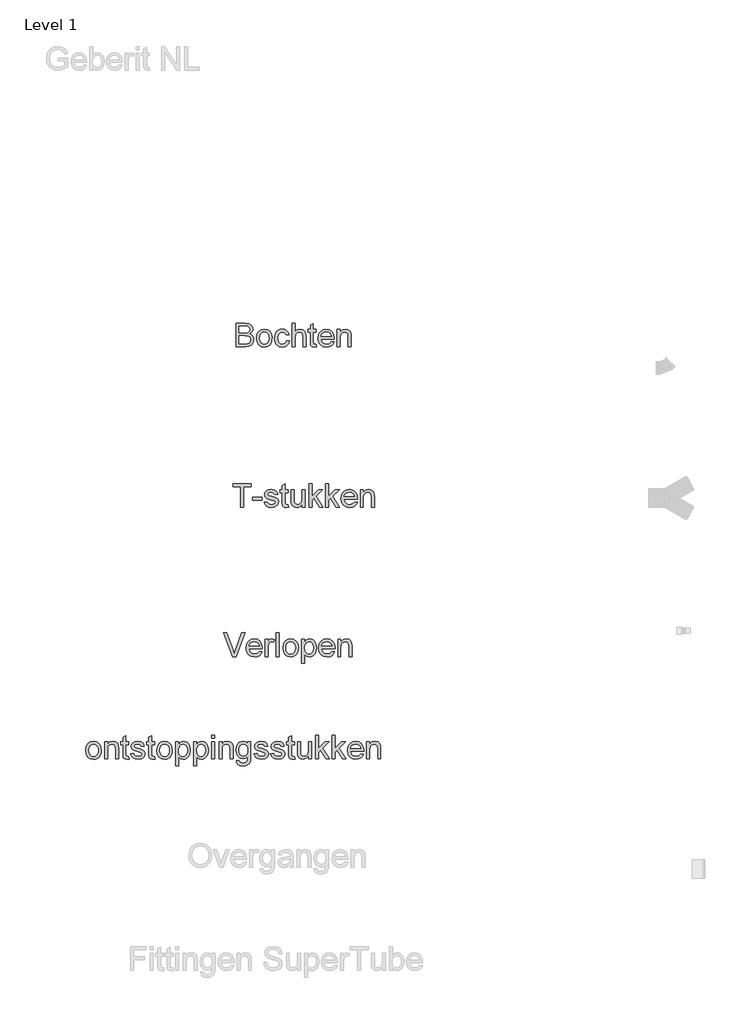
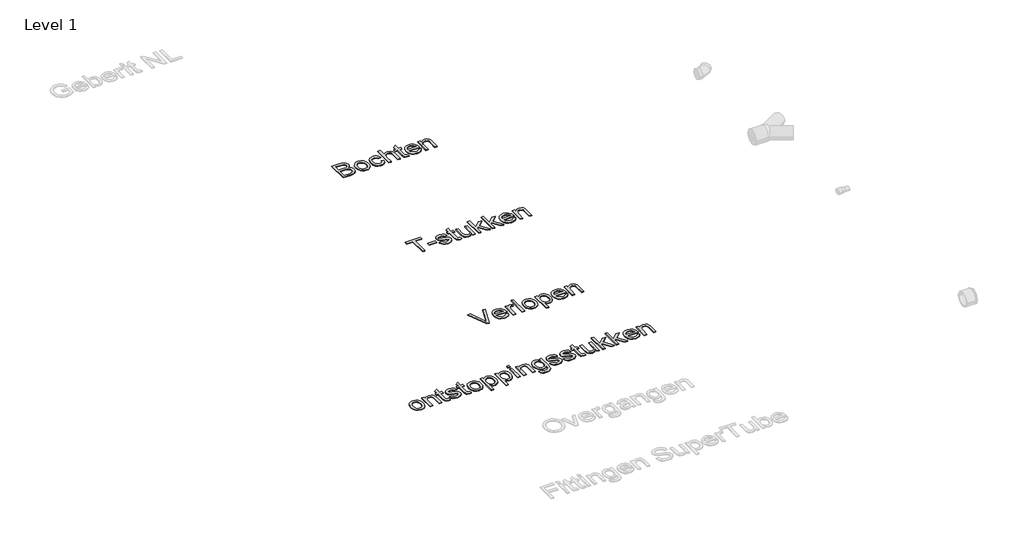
# One storey, part 3 of 9: 4 proxies.
"""IFC4 building model written with IfcOpenShell, lengths in millimetres."""

from ifc_helpers import new_model, si_unit, origin, origin_with_axes, place, context, project, spatial, polyline, outline, extrude, element, save

model = new_model("IFC4")

# Units and contexts
model_context = context("Model", 3, world=origin())
ifc_project = project(units=[si_unit("LENGTHUNIT", "METRE", prefix="MILLI")], contexts=[model_context])

# Site, building, storey
site = spatial("IfcSite", under=ifc_project)
building = spatial("IfcBuilding", under=site)
storey = spatial("IfcBuildingStorey", under=building, Name="Level 1", Elevation=0.0)

# Proxies
placement = place(None, origin())
element("IfcBuildingElementProxy", 1, Name="small", ObjectType="small", at=placement, inside=storey, context=model_context, shape_type="SweptSolid", body=[
    extrude(outline(polyline([(-2513.1083186, 21623.2663921), (-2513.1083186, 21763.9052263), (-2459.4416932, 21763.9052263), (-2433.1577509, 21759.7677802), (-2417.6380358, 21747.0464208), (-2412.0241565, 21729.0545387), (-2416.7453088, 21712.6249288), (-2431.0117726, 21700.1782546), (-2421.0501413, 21694.9764032), (-2413.6894357, 21687.0620352), (-2409.1442537, 21676.9587693), (-2407.629193, 21665.1902243), (-2411.7666392, 21646.2884474), (-2422.0158315, 21632.8288715), (-2437.3123649, 21625.6870557), (-2459.853721, 21623.2663921), (-2513.1083186, 21623.2663921)]), holes=[polyline([(-2495.5284644, 21706.7706999), (-2463.4246289, 21706.7706999), (-2444.6773624, 21708.2814687), (-2433.3981005, 21714.7880749), (-2429.6040108, 21726.2390151), (-2433.1405831, 21737.7071232), (-2443.2696007, 21744.4884146), (-2465.8624603, 21746.3253721), (-2495.5284644, 21746.3253721), (-2495.5284644, 21706.7706999)]), polyline([(-2495.5284644, 21640.8462464), (-2459.4760288, 21640.8462464), (-2446.4284807, 21641.5329595), (-2435.3895683, 21645.3613848), (-2428.0760743, 21653.1727458), (-2425.2090473, 21665.018546), (-2428.5739412, 21678.6841359), (-2439.475511, 21686.8388534), (-2461.1928115, 21689.1908457), (-2495.5284644, 21689.1908457), (-2495.5284644, 21640.8462464)])]), origin_with_axes(), (0.0, 0.0, 1.0), 5.0),
    extrude(outline(polyline([(-2390.0493387, 21674.9072141), (-2386.2466651, 21699.8091463), (-2374.8386445, 21717.3117454), (-2360.743859, 21725.8870747), (-2343.8678856, 21728.7455178), (-2325.3995963, 21725.264741), (-2310.6481414, 21714.8224105), (-2300.9783632, 21698.2425822), (-2297.7551038, 21676.3493115), (-2299.1800333, 21658.589195), (-2303.4548221, 21645.0695317), (-2310.4550034, 21634.9448061), (-2320.0561103, 21627.3695026), (-2331.459839, 21622.6440584), (-2343.8678856, 21621.0689103), (-2362.5593566, 21624.5368113), (-2377.2936437, 21634.9405141), (-2386.8604149, 21651.867991), (-2390.0493387, 21674.9072141)]), holes=[polyline([(-2372.4694844, 21674.9415497), (-2370.435097, 21659.0312666), (-2364.3319347, 21647.6962092), (-2355.1471475, 21640.9106257), (-2343.8678856, 21638.6487646), (-2332.6401271, 21640.9235016), (-2323.4725078, 21647.7477126), (-2317.3693455, 21659.2329885), (-2315.334958, 21675.4909202), (-2317.3822213, 21690.937672), (-2323.5240112, 21702.118219), (-2332.7045064, 21708.9038024), (-2343.8678856, 21711.1656635), (-2355.1471475, 21708.9123863), (-2364.3319347, 21702.1525546), (-2370.435097, 21690.843249), (-2372.4694844, 21674.9415497)])]), origin_with_axes(), (0.0, 0.0, 1.0), 5.0),
    extrude(outline(polyline([(-2212.0533142, 21660.6235825), (-2194.4734599, 21658.4261007), (-2199.3748743, 21642.7905027), (-2208.5854132, 21630.9747462), (-2221.2381013, 21623.5453693), (-2236.4659634, 21621.0689103), (-2255.1660183, 21624.5239354), (-2269.7887145, 21634.8890106), (-2279.2267271, 21651.7091886), (-2282.3727313, 21674.5295219), (-2276.9992016, 21703.7319947), (-2270.2179101, 21714.680776), (-2260.6210952, 21722.496429), (-2249.1401112, 21727.1832456), (-2236.7063129, 21728.7455178), (-2221.8518511, 21726.5995395), (-2209.9760072, 21720.1616046), (-2201.4564733, 21709.7750696), (-2196.6709417, 21695.783291), (-2214.2507959, 21693.5858092), (-2222.4055135, 21706.7535321), (-2236.5689703, 21711.1656635), (-2247.9297795, 21708.9939335), (-2256.9471803, 21702.4787433), (-2262.8314528, 21691.2681527), (-2264.792877, 21675.010221), (-2262.8743724, 21658.5333996), (-2257.1188586, 21647.2841813), (-2248.2645521, 21640.8076188), (-2237.0496695, 21638.6487646), (-2220.4827169, 21644.0394621), (-2215.0533918, 21650.880841), (-2212.0533142, 21660.6235825)])), origin_with_axes(), (0.0, 0.0, 1.0), 5.0),
    extrude(outline(polyline([(-2179.0910874, 21623.2663921), (-2179.0910874, 21763.9052263), (-2161.5112331, 21763.9052263), (-2161.5112331, 21712.1957331), (-2147.8027237, 21724.6080716), (-2130.9181664, 21728.7455178), (-2111.175166, 21724.2303794), (-2099.1920231, 21711.7493696), (-2095.5867796, 21688.6414752), (-2095.5867796, 21623.2663921), (-2113.1666339, 21623.2663921), (-2113.1666339, 21686.8216856), (-2114.5658117, 21697.8262624), (-2118.7633453, 21705.3629382), (-2125.5274689, 21709.7149822), (-2134.6264169, 21711.1656635), (-2149.0302233, 21707.2513991), (-2158.6442061, 21696.6416823), (-2161.5112331, 21678.1347654), (-2161.5112331, 21623.2663921), (-2179.0910874, 21623.2663921)])), origin_with_axes(), (0.0, 0.0, 1.0), 5.0),
    extrude(outline(polyline([(-2034.0572896, 21637.9277159), (-2031.8598078, 21622.7513573), (-2045.0103629, 21621.0689103), (-2059.740358, 21623.9874408), (-2067.0881877, 21631.6442914), (-2069.2169982, 21651.5933058), (-2069.2169982, 21708.9681817), (-2082.4018889, 21708.9681817), (-2082.4018889, 21726.548036), (-2069.2169982, 21726.548036), (-2069.2169982, 21751.6473983), (-2051.6371439, 21761.9824298), (-2051.6371439, 21726.548036), (-2034.0572896, 21726.548036), (-2034.0572896, 21708.9681817), (-2051.6371439, 21708.9681817), (-2051.6371439, 21652.1083405), (-2050.7100813, 21643.0437282), (-2047.7057116, 21639.8333446), (-2041.7141402, 21638.6487646), (-2034.0572896, 21637.9277159)])), origin_with_axes(), (0.0, 0.0, 1.0), 5.0),
    extrude(outline(polyline([(-1944.1665504, 21654.0311371), (-1926.9300526, 21651.8336553), (-1933.1405138, 21638.8461946), (-1943.0506416, 21629.1377888), (-1956.4372543, 21623.0861299), (-1973.0771701, 21621.0689103), (-1993.7043136, 21624.5496872), (-2009.5759691, 21634.9920176), (-2019.6964028, 21651.7177725), (-2023.0698807, 21674.0488227), (-2019.6620671, 21697.1309654), (-2009.4386265, 21714.3932149), (-1993.7815688, 21725.1574421), (-1974.072904, 21728.7455178), (-1954.9779891, 21725.166026), (-1939.7200833, 21714.4275505), (-1929.7155325, 21697.1996367), (-1926.3806822, 21674.1518297), (-1926.4836891, 21669.4135096), (-2005.4900264, 21669.4135096), (-2002.4470292, 21656.2543706), (-1995.3781766, 21646.5803004), (-1985.1761958, 21640.6316486), (-1972.7338136, 21638.6487646), (-1955.4973158, 21642.3226795), (-1944.1665504, 21654.0311371)]), holes=[polyline([(-2005.4900264, 21686.9933639), (-1943.9605364, 21686.9933639), (-1950.9993453, 21702.9251068), (-1961.2485377, 21709.1055243), (-1974.1415753, 21711.1656635), (-1985.9916675, 21709.5218441), (-1995.7902045, 21704.590386), (-2002.6015396, 21696.9034917), (-2005.4900264, 21686.9933639)])]), origin_with_axes(), (0.0, 0.0, 1.0), 5.0),
    extrude(outline(polyline([(-1908.8008279, 21623.2663921), (-1908.8008279, 21726.548036), (-1891.2209736, 21726.548036), (-1891.2209736, 21712.1270618), (-1877.7785655, 21724.5909038), (-1859.426159, 21728.7455178), (-1842.8248709, 21725.3977916), (-1831.4941054, 21716.6078645), (-1826.2235827, 21703.6804912), (-1825.2965201, 21686.684343), (-1825.2965201, 21623.2663921), (-1842.8763744, 21623.2663921), (-1842.8763744, 21684.315183), (-1844.9021779, 21699.8692337), (-1852.0611615, 21708.0926226), (-1864.1301435, 21711.1656635), (-1874.4265474, 21709.4402969), (-1883.2035987, 21704.2641973), (-1889.2166299, 21694.2639384), (-1891.2209736, 21678.0660941), (-1891.2209736, 21623.2663921), (-1908.8008279, 21623.2663921)])), origin_with_axes(), (0.0, 0.0, 1.0), 5.0),
])
element("IfcBuildingElementProxy", 2, Name="small", ObjectType="small", at=placement, inside=storey, context=model_context, shape_type="SweptSolid", body=[
    extrude(outline(polyline([(-2484.998685, 20666.7737086), (-2484.998685, 20789.8326885), (-2531.1458025, 20789.8326885), (-2531.1458025, 20807.4125428), (-2421.2717132, 20807.4125428), (-2421.2717132, 20789.8326885), (-2467.4188307, 20789.8326885), (-2467.4188307, 20666.7737086), (-2484.998685, 20666.7737086)])), origin_with_axes(), (0.0, 0.0, 1.0), 5.0),
    extrude(outline(polyline([(-2412.4817861, 20708.5258625), (-2412.4817861, 20726.1057168), (-2357.5447415, 20726.1057168), (-2357.5447415, 20708.5258625), (-2412.4817861, 20708.5258625)])), origin_with_axes(), (0.0, 0.0, 1.0), 5.0),
    extrude(outline(polyline([(-2344.3598508, 20697.5384536), (-2326.7799965, 20699.7359353), (-2324.0073925, 20692.2164274), (-2318.6424468, 20686.6883872), (-2299.9981872, 20682.1560811), (-2282.0749764, 20686.3106951), (-2276.2379154, 20696.0620205), (-2282.1093121, 20703.9592206), (-2300.2042012, 20708.972226), (-2326.6769895, 20717.573307), (-2338.2309367, 20727.6164855), (-2342.162369, 20741.7971101), (-2339.0034889, 20754.8961617), (-2330.38524, 20764.9050045), (-2319.208985, 20770.1068559), (-2304.0841299, 20772.2528342), (-2282.6930182, 20768.8021011), (-2269.0960996, 20759.4628035), (-2263.0530247, 20743.685571), (-2280.632879, 20741.4880892), (-2287.2424922, 20751.1879112), (-2302.7107038, 20754.67298), (-2319.5351737, 20751.3424216), (-2324.5825147, 20743.5825641), (-2322.4880399, 20738.4665518), (-2315.9299302, 20734.586623), (-2300.7879073, 20730.8440369), (-2274.9846641, 20722.5691445), (-2263.0015213, 20713.1955113), (-2258.6580612, 20697.9161457), (-2263.7569056, 20681.0916758), (-2278.4697329, 20668.8853512), (-2300.2385368, 20664.5762268), (-2317.9643176, 20666.6535338), (-2330.9002748, 20672.8854548), (-2339.5356915, 20683.2033185), (-2344.3598508, 20697.5384536)])), origin_with_axes(), (0.0, 0.0, 1.0), 5.0),
    extrude(outline(polyline([(-2201.5235348, 20681.4350324), (-2199.326053, 20666.2586738), (-2212.476608, 20664.5762268), (-2227.2066031, 20667.4947573), (-2234.5544328, 20675.1516079), (-2236.6832433, 20695.1006222), (-2236.6832433, 20752.4754982), (-2249.868134, 20752.4754982), (-2249.868134, 20770.0553524), (-2236.6832433, 20770.0553524), (-2236.6832433, 20795.1547147), (-2219.103389, 20805.4897462), (-2219.103389, 20770.0553524), (-2201.5235348, 20770.0553524), (-2201.5235348, 20752.4754982), (-2219.103389, 20752.4754982), (-2219.103389, 20695.615657), (-2218.1763264, 20686.5510446), (-2215.1719568, 20683.3406611), (-2209.1803854, 20682.1560811), (-2201.5235348, 20681.4350324)])), origin_with_axes(), (0.0, 0.0, 1.0), 5.0),
    extrude(outline(polyline([(-2118.019227, 20666.7737086), (-2118.019227, 20684.5252411), (-2131.7878238, 20669.5634804), (-2149.7453702, 20664.5762268), (-2166.2779871, 20668.0784634), (-2177.6774238, 20676.8683905), (-2182.9136109, 20689.8129317), (-2183.9436805, 20706.1567024), (-2183.9436805, 20770.0553524), (-2166.3638262, 20770.0553524), (-2166.3638262, 20714.4315948), (-2165.299421, 20696.508384), (-2158.3464513, 20685.9845064), (-2145.2473997, 20682.1560811), (-2130.5689081, 20686.0703455), (-2120.8690862, 20696.7315657), (-2118.019227, 20716.3200557), (-2118.019227, 20770.0553524), (-2100.4393727, 20770.0553524), (-2100.4393727, 20666.7737086), (-2118.019227, 20666.7737086)])), origin_with_axes(), (0.0, 0.0, 1.0), 5.0),
    extrude(outline(polyline([(-2076.2670731, 20666.7737086), (-2076.2670731, 20807.4125428), (-2058.6872188, 20807.4125428), (-2058.6872188, 20731.8397708), (-2019.2698893, 20770.0553524), (-1994.960247, 20770.0553524), (-2034.8582757, 20731.3590716), (-1992.7627652, 20666.7737086), (-2013.2954857, 20666.7737086), (-2047.4594603, 20719.1355792), (-2058.6872188, 20708.2511773), (-2058.6872188, 20666.7737086), (-2076.2670731, 20666.7737086)])), origin_with_axes(), (0.0, 0.0, 1.0), 5.0),
    extrude(outline(polyline([(-1977.3803928, 20666.7737086), (-1977.3803928, 20807.4125428), (-1959.8005385, 20807.4125428), (-1959.8005385, 20731.8397708), (-1920.383209, 20770.0553524), (-1896.0735667, 20770.0553524), (-1935.9715954, 20731.3590716), (-1893.8760849, 20666.7737086), (-1914.4088054, 20666.7737086), (-1948.57278, 20719.1355792), (-1959.8005385, 20708.2511773), (-1959.8005385, 20666.7737086), (-1977.3803928, 20666.7737086)])), origin_with_axes(), (0.0, 0.0, 1.0), 5.0),
    extrude(outline(polyline([(-1806.1828275, 20697.5384536), (-1788.9463297, 20695.3409718), (-1795.1567909, 20682.3535111), (-1805.0669188, 20672.6451052), (-1818.4535314, 20666.5934464), (-1835.0934472, 20664.5762268), (-1855.7205907, 20668.0570036), (-1871.5922462, 20678.499334), (-1881.7126799, 20695.2250889), (-1885.0861578, 20717.5561392), (-1881.6783443, 20740.6382818), (-1871.4549036, 20757.9005313), (-1855.7978459, 20768.6647585), (-1836.0891811, 20772.2528342), (-1816.9942662, 20768.6733424), (-1801.7363604, 20757.934867), (-1791.7318096, 20740.7069531), (-1788.3969593, 20717.6591461), (-1788.4999662, 20712.920826), (-1867.5063035, 20712.920826), (-1864.4633063, 20699.7616871), (-1857.3944538, 20690.0876169), (-1847.1924729, 20684.138965), (-1834.7500907, 20682.1560811), (-1817.5135929, 20685.8299959), (-1806.1828275, 20697.5384536)]), holes=[polyline([(-1867.5063035, 20730.5006803), (-1805.9768136, 20730.5006803), (-1813.0156224, 20746.4324233), (-1823.2648148, 20752.6128408), (-1836.1578524, 20754.67298), (-1848.0079446, 20753.0291606), (-1857.8064816, 20748.0977024), (-1864.6178167, 20740.4108081), (-1867.5063035, 20730.5006803)])]), origin_with_axes(), (0.0, 0.0, 1.0), 5.0),
    extrude(outline(polyline([(-1770.817105, 20666.7737086), (-1770.817105, 20770.0553524), (-1753.2372507, 20770.0553524), (-1753.2372507, 20755.6343782), (-1739.7948426, 20768.0982202), (-1721.4424362, 20772.2528342), (-1704.841148, 20768.9051081), (-1693.5103825, 20760.1151809), (-1688.2398598, 20747.1878076), (-1687.3127972, 20730.1916594), (-1687.3127972, 20666.7737086), (-1704.8926515, 20666.7737086), (-1704.8926515, 20727.8224994), (-1706.918455, 20743.3765502), (-1714.0774386, 20751.599939), (-1726.1464206, 20754.67298), (-1736.4428245, 20752.9476134), (-1745.2198758, 20747.7715137), (-1751.232907, 20737.7712548), (-1753.2372507, 20721.5734106), (-1753.2372507, 20666.7737086), (-1770.817105, 20666.7737086)])), origin_with_axes(), (0.0, 0.0, 1.0), 5.0),
])
element("IfcBuildingElementProxy", 3, Name="small", ObjectType="small", at=placement, inside=storey, context=model_context, shape_type="SweptSolid", body=[
    extrude(outline(polyline([(-2531.6280803, 19776.1046836), (-2587.5951945, 19916.7435178), (-2568.7792567, 19916.7435178), (-2531.3190594, 19815.4190061), (-2523.7308801, 19792.5857969), (-2516.2457078, 19815.4190061), (-2478.6825035, 19916.7435178), (-2459.8665657, 19916.7435178), (-2513.4645199, 19776.1046836), (-2531.6280803, 19776.1046836)])), origin_with_axes(), (0.0, 0.0, 1.0), 5.0),
    extrude(outline(polyline([(-2373.4093918, 19806.8694285), (-2356.172894, 19804.6719468), (-2362.3833553, 19791.6844861), (-2372.2934831, 19781.9760802), (-2385.6800957, 19775.9244214), (-2402.3200115, 19773.9072018), (-2422.947155, 19777.3879786), (-2438.8188105, 19787.830309), (-2448.9392442, 19804.5560639), (-2452.3127221, 19826.8871142), (-2448.9049086, 19849.9692568), (-2438.6814679, 19867.2315063), (-2423.0244102, 19877.9957335), (-2403.3157454, 19881.5838092), (-2384.2208305, 19878.0043174), (-2368.9629247, 19867.265842), (-2358.9583739, 19850.0379281), (-2355.6235236, 19826.9901211), (-2355.7265306, 19822.251801), (-2434.7328678, 19822.251801), (-2431.6898706, 19809.0926621), (-2424.6210181, 19799.4185919), (-2414.4190372, 19793.46994), (-2401.976655, 19791.487056), (-2384.7401572, 19795.1609709), (-2373.4093918, 19806.8694285)]), holes=[polyline([(-2434.7328678, 19839.8316553), (-2373.2033779, 19839.8316553), (-2380.2421867, 19855.7633982), (-2390.4913791, 19861.9438158), (-2403.3844168, 19864.0039549), (-2415.234509, 19862.3601356), (-2425.0330459, 19857.4286774), (-2431.844381, 19849.7417831), (-2434.7328678, 19839.8316553)])]), origin_with_axes(), (0.0, 0.0, 1.0), 5.0),
    extrude(outline(polyline([(-2338.0436693, 19776.1046836), (-2338.0436693, 19879.3863274), (-2322.6612968, 19879.3863274), (-2322.6612968, 19864.1069619), (-2311.7425592, 19878.1845796), (-2300.7551503, 19881.5838092), (-2283.1066247, 19876.1587761), (-2288.9780213, 19860.3987114), (-2301.3388564, 19864.0039549), (-2311.2790279, 19860.536054), (-2317.6139559, 19850.9220712), (-2320.463815, 19830.3893508), (-2320.463815, 19776.1046836), (-2338.0436693, 19776.1046836)])), origin_with_axes(), (0.0, 0.0, 1.0), 5.0),
    extrude(outline(polyline([(-2272.1192158, 19776.1046836), (-2272.1192158, 19916.7435178), (-2254.5393615, 19916.7435178), (-2254.5393615, 19776.1046836), (-2272.1192158, 19776.1046836)])), origin_with_axes(), (0.0, 0.0, 1.0), 5.0),
    extrude(outline(polyline([(-2232.5645437, 19827.7455055), (-2228.7618701, 19852.6474377), (-2217.3538494, 19870.1500368), (-2203.2590639, 19878.7253661), (-2186.3830905, 19881.5838092), (-2167.9148012, 19878.1030324), (-2153.1633464, 19867.660702), (-2143.4935681, 19851.0808736), (-2140.2703087, 19829.1876029), (-2141.6952383, 19811.4274865), (-2145.9700271, 19797.9078231), (-2152.9702083, 19787.7830975), (-2162.5713153, 19780.2077941), (-2173.975044, 19775.4823498), (-2186.3830905, 19773.9072018), (-2205.0745616, 19777.3751027), (-2219.8088486, 19787.7788055), (-2229.3756199, 19804.7062824), (-2232.5645437, 19827.7455055)]), holes=[polyline([(-2214.9846894, 19827.7798411), (-2212.9503019, 19811.869558), (-2206.8471396, 19800.5345006), (-2197.6623525, 19793.7489172), (-2186.3830905, 19791.487056), (-2175.155332, 19793.7617931), (-2165.9877127, 19800.5860041), (-2159.8845504, 19812.07128), (-2157.850163, 19828.3292116), (-2159.8974263, 19843.7759634), (-2166.0392162, 19854.9565104), (-2175.2197114, 19861.7420938), (-2186.3830905, 19864.0039549), (-2197.6623525, 19861.7506777), (-2206.8471396, 19854.9908461), (-2212.9503019, 19843.6815404), (-2214.9846894, 19827.7798411)])]), origin_with_axes(), (0.0, 0.0, 1.0), 5.0),
    extrude(outline(polyline([(-2120.4929726, 19736.5500114), (-2120.4929726, 19879.3863274), (-2102.9131184, 19879.3863274), (-2102.9131184, 19862.1498297), (-2090.7582973, 19876.7253143), (-2074.3458552, 19881.5838092), (-2062.4571354, 19879.8841944), (-2052.0620165, 19874.7853499), (-2043.598278, 19866.5962967), (-2037.5036996, 19855.6260556), (-2032.5937013, 19828.5352255), (-2038.1389092, 19800.0538014), (-2044.9373685, 19788.8775464), (-2054.2423304, 19780.6541576), (-2065.0795209, 19775.5939407), (-2076.4746657, 19773.9072018), (-2091.771199, 19778.4223401), (-2102.9131184, 19789.8389447), (-2102.9131184, 19736.5500114), (-2120.4929726, 19736.5500114)]), holes=[polyline([(-2102.9131184, 19826.9214498), (-2101.0117816, 19811.1613851), (-2095.3077713, 19800.1396406), (-2086.8912443, 19793.6502022), (-2076.8523578, 19791.487056), (-2066.650377, 19793.7274574), (-2058.0192522, 19800.4486615), (-2052.1349797, 19811.8738499), (-2050.1735555, 19828.2262046), (-2052.0877682, 19843.9004302), (-2057.8304061, 19855.0766852), (-2066.2340572, 19861.7721375), (-2076.1313091, 19864.0039549), (-2086.0671887, 19861.6305029), (-2094.7927365, 19854.5101469), (-2100.8830229, 19842.8660686), (-2102.9131184, 19826.9214498)])]), origin_with_axes(), (0.0, 0.0, 1.0), 5.0),
    extrude(outline(polyline([(-1940.5054802, 19806.8694285), (-1923.2689825, 19804.6719468), (-1929.4794437, 19791.6844861), (-1939.3895715, 19781.9760802), (-1952.7761842, 19775.9244214), (-1969.4161, 19773.9072018), (-1990.0432434, 19777.3879786), (-2005.914899, 19787.830309), (-2016.0353327, 19804.5560639), (-2019.4088106, 19826.8871142), (-2016.000997, 19849.9692568), (-2005.7775564, 19867.2315063), (-1990.1204987, 19877.9957335), (-1970.4118339, 19881.5838092), (-1951.3169189, 19878.0043174), (-1936.0590132, 19867.265842), (-1926.0544623, 19850.0379281), (-1922.719612, 19826.9901211), (-1922.822619, 19822.251801), (-2001.8289563, 19822.251801), (-1998.785959, 19809.0926621), (-1991.7171065, 19799.4185919), (-1981.5151256, 19793.46994), (-1969.0727434, 19791.487056), (-1951.8362457, 19795.1609709), (-1940.5054802, 19806.8694285)]), holes=[polyline([(-2001.8289563, 19839.8316553), (-1940.2994663, 19839.8316553), (-1947.3382752, 19855.7633982), (-1957.5874675, 19861.9438158), (-1970.4805052, 19864.0039549), (-1982.3305974, 19862.3601356), (-1992.1291343, 19857.4286774), (-1998.9404695, 19849.7417831), (-2001.8289563, 19839.8316553)])]), origin_with_axes(), (0.0, 0.0, 1.0), 5.0),
    extrude(outline(polyline([(-1905.1397578, 19776.1046836), (-1905.1397578, 19879.3863274), (-1887.5599035, 19879.3863274), (-1887.5599035, 19864.9653532), (-1874.1174954, 19877.4291952), (-1855.7650889, 19881.5838092), (-1839.1638008, 19878.2360831), (-1827.8330353, 19869.4461559), (-1822.5625126, 19856.5187826), (-1821.63545, 19839.5226344), (-1821.63545, 19776.1046836), (-1839.2153042, 19776.1046836), (-1839.2153042, 19837.1534744), (-1841.2411077, 19852.7075251), (-1848.4000914, 19860.930914), (-1860.4690734, 19864.0039549), (-1870.7654773, 19862.2785884), (-1879.5425285, 19857.1024887), (-1885.5555598, 19847.1022298), (-1887.5599035, 19830.9043856), (-1887.5599035, 19776.1046836), (-1905.1397578, 19776.1046836)])), origin_with_axes(), (0.0, 0.0, 1.0), 5.0),
])
element("IfcBuildingElementProxy", 4, Name="small", ObjectType="small", at=placement, inside=storey, context=model_context, shape_type="SweptSolid", body=[
    extrude(outline(polyline([(-3409.2221868, 19216.7836302), (-3405.4195132, 19241.6855625), (-3394.0114925, 19259.1881615), (-3379.916707, 19267.7634908), (-3363.0407336, 19270.6219339), (-3344.5724443, 19267.1411571), (-3329.8209895, 19256.6988267), (-3320.1512112, 19240.1189983), (-3316.9279518, 19218.2257276), (-3318.3528814, 19200.4656112), (-3322.6276702, 19186.9459479), (-3329.6278514, 19176.8212222), (-3339.2289584, 19169.2459188), (-3350.6326871, 19164.5204746), (-3363.0407336, 19162.9453265), (-3381.7322047, 19166.4132274), (-3396.4664917, 19176.8169303), (-3406.033263, 19193.7444071), (-3409.2221868, 19216.7836302)]), holes=[polyline([(-3391.6423325, 19216.8179659), (-3389.6079451, 19200.9076827), (-3383.5047828, 19189.5726253), (-3374.3199956, 19182.7870419), (-3363.0407336, 19180.5251808), (-3351.8129751, 19182.7999178), (-3342.6453558, 19189.6241288), (-3336.5421935, 19201.1094047), (-3334.5078061, 19217.3673363), (-3336.5550694, 19232.8140882), (-3342.6968593, 19243.9946351), (-3351.8773545, 19250.7802185), (-3363.0407336, 19253.0420797), (-3374.3199956, 19250.7888024), (-3383.5047828, 19244.0289708), (-3389.6079451, 19232.7196651), (-3391.6423325, 19216.8179659)])]), origin_with_axes(), (0.0, 0.0, 1.0), 5.0),
    extrude(outline(polyline([(-3297.1506158, 19165.1428083), (-3297.1506158, 19268.4244522), (-3279.5707615, 19268.4244522), (-3279.5707615, 19254.0034779), (-3266.1283534, 19266.4673199), (-3247.7759469, 19270.6219339), (-3231.1746587, 19267.2742078), (-3219.8438933, 19258.4842806), (-3214.5733706, 19245.5569073), (-3213.6463079, 19228.5607592), (-3213.6463079, 19165.1428083), (-3231.2261622, 19165.1428083), (-3231.2261622, 19226.1915991), (-3233.2519657, 19241.7456499), (-3240.4109494, 19249.9690387), (-3252.4799314, 19253.0420797), (-3262.7763353, 19251.3167131), (-3271.5533865, 19246.1406134), (-3277.5664177, 19236.1403545), (-3279.5707615, 19219.9425103), (-3279.5707615, 19165.1428083), (-3297.1506158, 19165.1428083)])), origin_with_axes(), (0.0, 0.0, 1.0), 5.0),
    extrude(outline(polyline([(-3152.116818, 19179.8041321), (-3149.9193362, 19164.6277735), (-3163.0698912, 19162.9453265), (-3177.7998863, 19165.863857), (-3185.147716, 19173.5207076), (-3187.2765265, 19193.4697219), (-3187.2765265, 19250.8445979), (-3200.4614172, 19250.8445979), (-3200.4614172, 19268.4244522), (-3187.2765265, 19268.4244522), (-3187.2765265, 19293.5238144), (-3169.6966722, 19303.8588459), (-3169.6966722, 19268.4244522), (-3152.116818, 19268.4244522), (-3152.116818, 19250.8445979), (-3169.6966722, 19250.8445979), (-3169.6966722, 19193.9847567), (-3168.7696096, 19184.9201443), (-3165.76524, 19181.7097608), (-3159.7736686, 19180.5251808), (-3152.116818, 19179.8041321)])), origin_with_axes(), (0.0, 0.0, 1.0), 5.0),
    extrude(outline(polyline([(-3141.1294091, 19195.9075533), (-3123.5495548, 19198.1050351), (-3120.7769508, 19190.5855271), (-3115.412005, 19185.057487), (-3096.7677455, 19180.5251808), (-3078.8445347, 19184.6797948), (-3073.0074737, 19194.4311202), (-3078.8788704, 19202.3283204), (-3096.9737594, 19207.3413257), (-3123.4465478, 19215.9424067), (-3135.000495, 19225.9855852), (-3138.9319273, 19240.1662098), (-3135.7730472, 19253.2652614), (-3127.1547983, 19263.2741042), (-3115.9785433, 19268.4759556), (-3100.8536882, 19270.6219339), (-3079.4625765, 19267.1712008), (-3065.8656579, 19257.8319032), (-3059.822583, 19242.0546707), (-3077.4024373, 19239.857189), (-3084.0120505, 19249.5570109), (-3099.4802621, 19253.0420797), (-3116.304732, 19249.7115213), (-3121.352073, 19241.9516638), (-3119.2575982, 19236.8356515), (-3112.6994885, 19232.9557227), (-3097.5574655, 19229.2131366), (-3071.7542224, 19220.9382442), (-3059.7710795, 19211.564611), (-3055.4276195, 19196.2852455), (-3060.5264639, 19179.4607755), (-3075.2392912, 19167.2544509), (-3097.0080951, 19162.9453265), (-3114.7338759, 19165.0226335), (-3127.6698331, 19171.2545545), (-3136.3052498, 19181.5724182), (-3141.1294091, 19195.9075533)])), origin_with_axes(), (0.0, 0.0, 1.0), 5.0),
    extrude(outline(polyline([(-2998.2930931, 19179.8041321), (-2996.0956113, 19164.6277735), (-3009.2461663, 19162.9453265), (-3023.9761614, 19165.863857), (-3031.3239911, 19173.5207076), (-3033.4528016, 19193.4697219), (-3033.4528016, 19250.8445979), (-3046.6376923, 19250.8445979), (-3046.6376923, 19268.4244522), (-3033.4528016, 19268.4244522), (-3033.4528016, 19293.5238144), (-3015.8729473, 19303.8588459), (-3015.8729473, 19268.4244522), (-2998.2930931, 19268.4244522), (-2998.2930931, 19250.8445979), (-3015.8729473, 19250.8445979), (-3015.8729473, 19193.9847567), (-3014.9458847, 19184.9201443), (-3011.9415151, 19181.7097608), (-3005.9499436, 19180.5251808), (-2998.2930931, 19179.8041321)])), origin_with_axes(), (0.0, 0.0, 1.0), 5.0),
    extrude(outline(polyline([(-2985.1082023, 19216.7836302), (-2981.3055288, 19241.6855625), (-2969.8975081, 19259.1881615), (-2955.8027226, 19267.7634908), (-2938.9267492, 19270.6219339), (-2920.4584599, 19267.1411571), (-2905.7070051, 19256.6988267), (-2896.0372268, 19240.1189983), (-2892.8139674, 19218.2257276), (-2894.238897, 19200.4656112), (-2898.5136858, 19186.9459479), (-2905.513867, 19176.8212222), (-2915.1149739, 19169.2459188), (-2926.5187027, 19164.5204746), (-2938.9267492, 19162.9453265), (-2957.6182203, 19166.4132274), (-2972.3525073, 19176.8169303), (-2981.9192786, 19193.7444071), (-2985.1082023, 19216.7836302)]), holes=[polyline([(-2967.5283481, 19216.8179659), (-2965.4939606, 19200.9076827), (-2959.3907983, 19189.5726253), (-2950.2060112, 19182.7870419), (-2938.9267492, 19180.5251808), (-2927.6989907, 19182.7999178), (-2918.5313714, 19189.6241288), (-2912.4282091, 19201.1094047), (-2910.3938217, 19217.3673363), (-2912.441085, 19232.8140882), (-2918.5828749, 19243.9946351), (-2927.7633701, 19250.7802185), (-2938.9267492, 19253.0420797), (-2950.2060112, 19250.7888024), (-2959.3907983, 19244.0289708), (-2965.4939606, 19232.7196651), (-2967.5283481, 19216.8179659)])]), origin_with_axes(), (0.0, 0.0, 1.0), 5.0),
    extrude(outline(polyline([(-2873.0366313, 19125.5881362), (-2873.0366313, 19268.4244522), (-2855.4567771, 19268.4244522), (-2855.4567771, 19251.1879544), (-2843.3019559, 19265.7634391), (-2826.8895139, 19270.6219339), (-2815.0007941, 19268.9223191), (-2804.6056751, 19263.8234747), (-2796.1419367, 19255.6344215), (-2790.0473583, 19244.6641804), (-2785.13736, 19217.5733502), (-2790.6825679, 19189.0919262), (-2797.4810272, 19177.9156712), (-2806.7859891, 19169.6922823), (-2817.6231795, 19164.6320654), (-2829.0183243, 19162.9453265), (-2844.3148577, 19167.4604649), (-2855.4567771, 19178.8770694), (-2855.4567771, 19125.5881362), (-2873.0366313, 19125.5881362)]), holes=[polyline([(-2855.4567771, 19215.9595746), (-2853.5554403, 19200.1995099), (-2847.8514299, 19189.1777653), (-2839.434903, 19182.6883269), (-2829.3960165, 19180.5251808), (-2819.1940357, 19182.7655821), (-2810.5629109, 19189.4867862), (-2804.6786384, 19200.9119747), (-2802.7172142, 19217.2643294), (-2804.6314269, 19232.9385549), (-2810.3740648, 19244.1148099), (-2818.7777159, 19250.8102622), (-2828.6749678, 19253.0420797), (-2838.6108474, 19250.6686277), (-2847.3363952, 19243.5482716), (-2853.4266816, 19231.9041934), (-2855.4567771, 19215.9595746)])]), origin_with_axes(), (0.0, 0.0, 1.0), 5.0),
    extrude(outline(polyline([(-2765.3600239, 19125.5881362), (-2765.3600239, 19268.4244522), (-2747.7801696, 19268.4244522), (-2747.7801696, 19251.1879544), (-2735.6253485, 19265.7634391), (-2719.2129064, 19270.6219339), (-2707.3241866, 19268.9223191), (-2696.9290677, 19263.8234747), (-2688.4653293, 19255.6344215), (-2682.3707509, 19244.6641804), (-2677.4607525, 19217.5733502), (-2683.0059605, 19189.0919262), (-2689.8044197, 19177.9156712), (-2699.1093817, 19169.6922823), (-2709.9465721, 19164.6320654), (-2721.3417169, 19162.9453265), (-2736.6382503, 19167.4604649), (-2747.7801696, 19178.8770694), (-2747.7801696, 19125.5881362), (-2765.3600239, 19125.5881362)]), holes=[polyline([(-2747.7801696, 19215.9595746), (-2745.8788328, 19200.1995099), (-2740.1748225, 19189.1777653), (-2731.7582956, 19182.6883269), (-2721.7194091, 19180.5251808), (-2711.5174282, 19182.7655821), (-2702.8863035, 19189.4867862), (-2697.002031, 19200.9119747), (-2695.0406068, 19217.2643294), (-2696.9548194, 19232.9385549), (-2702.6974574, 19244.1148099), (-2711.1011084, 19250.8102622), (-2720.9983604, 19253.0420797), (-2730.9342399, 19250.6686277), (-2739.6597877, 19243.5482716), (-2745.7500741, 19231.9041934), (-2747.7801696, 19215.9595746)])]), origin_with_axes(), (0.0, 0.0, 1.0), 5.0),
    extrude(outline(polyline([(-2657.6834165, 19288.2017882), (-2657.6834165, 19305.7816425), (-2640.1035622, 19305.7816425), (-2640.1035622, 19288.2017882), (-2657.6834165, 19288.2017882)])), origin_with_axes(), (0.0, 0.0, 1.0), 5.0),
    extrude(outline(polyline([(-2657.6834165, 19165.1428083), (-2657.6834165, 19268.4244522), (-2640.1035622, 19268.4244522), (-2640.1035622, 19165.1428083), (-2657.6834165, 19165.1428083)])), origin_with_axes(), (0.0, 0.0, 1.0), 5.0),
    extrude(outline(polyline([(-2613.7337808, 19165.1428083), (-2613.7337808, 19268.4244522), (-2596.1539265, 19268.4244522), (-2596.1539265, 19254.0034779), (-2582.7115184, 19266.4673199), (-2564.3591119, 19270.6219339), (-2547.7578237, 19267.2742078), (-2536.4270583, 19258.4842806), (-2531.1565356, 19245.5569073), (-2530.229473, 19228.5607592), (-2530.229473, 19165.1428083), (-2547.8093272, 19165.1428083), (-2547.8093272, 19226.1915991), (-2549.8351307, 19241.7456499), (-2556.9941144, 19249.9690387), (-2569.0630964, 19253.0420797), (-2579.3595003, 19251.3167131), (-2588.1365515, 19246.1406134), (-2594.1495828, 19236.1403545), (-2596.1539265, 19219.9425103), (-2596.1539265, 19165.1428083), (-2613.7337808, 19165.1428083)])), origin_with_axes(), (0.0, 0.0, 1.0), 5.0),
    extrude(outline(polyline([(-2510.4521369, 19156.3528811), (-2492.8722826, 19154.1553994), (-2487.1725642, 19144.8847731), (-2470.1077448, 19140.9705087), (-2452.1158626, 19145.3998079), (-2443.5319494, 19157.8293142), (-2442.3302016, 19178.327699), (-2454.7082044, 19168.439031), (-2469.7987239, 19165.1428083), (-2487.9236566, 19168.9798175), (-2501.439028, 19180.4908451), (-2509.846971, 19197.3668185), (-2512.6496187, 19217.298665), (-2507.6194455, 19244.5440056), (-2501.4647798, 19255.6043778), (-2493.0611287, 19263.8234747), (-2482.6960535, 19268.9223191), (-2470.6571152, 19270.6219339), (-2454.9743057, 19266.7763408), (-2442.3302016, 19255.2395615), (-2442.3302016, 19268.4244522), (-2424.7503473, 19268.4244522), (-2424.7503473, 19179.2547616), (-2425.9520951, 19158.6662458), (-2429.5573387, 19145.1079548), (-2435.7677999, 19136.1163057), (-2444.7852008, 19129.2277154), (-2456.4121112, 19124.8499196), (-2470.4511013, 19123.3906544), (-2486.8077479, 19125.4465016), (-2499.6879097, 19131.6140432), (-2507.9499262, 19141.9104472), (-2510.4521369, 19156.3528811)]), holes=[polyline([(-2495.0697644, 19218.5004129), (-2493.1941794, 19202.3755319), (-2487.5674242, 19191.289408), (-2479.1079778, 19184.8643489), (-2468.7343186, 19182.7226626), (-2458.4379147, 19184.851473), (-2449.9355487, 19191.2379045), (-2444.2315384, 19202.1823938), (-2442.3302016, 19217.9853781), (-2444.2873338, 19233.226116), (-2450.1587304, 19244.200649), (-2458.7855632, 19250.831722), (-2469.0090039, 19253.0420797), (-2479.0478904, 19250.8660577), (-2487.4644173, 19244.3379917), (-2493.1684276, 19233.526553), (-2495.0697644, 19218.5004129)])]), origin_with_axes(), (0.0, 0.0, 1.0), 5.0),
    extrude(outline(polyline([(-2404.9730112, 19195.9075533), (-2387.393157, 19198.1050351), (-2384.620553, 19190.5855271), (-2379.2556072, 19185.057487), (-2360.6113477, 19180.5251808), (-2342.6881369, 19184.6797948), (-2336.8510759, 19194.4311202), (-2342.7224726, 19202.3283204), (-2360.8173616, 19207.3413257), (-2387.29015, 19215.9424067), (-2398.8440972, 19225.9855852), (-2402.7755295, 19240.1662098), (-2399.6166494, 19253.2652614), (-2390.9984005, 19263.2741042), (-2379.8221455, 19268.4759556), (-2364.6972904, 19270.6219339), (-2343.3061787, 19267.1712008), (-2329.7092601, 19257.8319032), (-2323.6661852, 19242.0546707), (-2341.2460395, 19239.857189), (-2347.8556527, 19249.5570109), (-2363.3238643, 19253.0420797), (-2380.1483342, 19249.7115213), (-2385.1956752, 19241.9516638), (-2383.1012003, 19236.8356515), (-2376.5430906, 19232.9557227), (-2361.4010677, 19229.2131366), (-2335.5978246, 19220.9382442), (-2323.6146817, 19211.564611), (-2319.2712216, 19196.2852455), (-2324.3700661, 19179.4607755), (-2339.0828934, 19167.2544509), (-2360.8516973, 19162.9453265), (-2378.5774781, 19165.0226335), (-2391.5134353, 19171.2545545), (-2400.148852, 19181.5724182), (-2404.9730112, 19195.9075533)])), origin_with_axes(), (0.0, 0.0, 1.0), 5.0),
    extrude(outline(polyline([(-2306.0863309, 19195.9075533), (-2288.5064767, 19198.1050351), (-2285.7338727, 19190.5855271), (-2280.3689269, 19185.057487), (-2261.7246674, 19180.5251808), (-2243.8014566, 19184.6797948), (-2237.9643956, 19194.4311202), (-2243.8357923, 19202.3283204), (-2261.9306813, 19207.3413257), (-2288.4034697, 19215.9424067), (-2299.9574169, 19225.9855852), (-2303.8888491, 19240.1662098), (-2300.7299691, 19253.2652614), (-2292.1117202, 19263.2741042), (-2280.9354652, 19268.4759556), (-2265.8106101, 19270.6219339), (-2244.4194984, 19267.1712008), (-2230.8225798, 19257.8319032), (-2224.7795049, 19242.0546707), (-2242.3593592, 19239.857189), (-2248.9689724, 19249.5570109), (-2264.437184, 19253.0420797), (-2281.2616539, 19249.7115213), (-2286.3089949, 19241.9516638), (-2284.21452, 19236.8356515), (-2277.6564103, 19232.9557227), (-2262.5143874, 19229.2131366), (-2236.7111443, 19220.9382442), (-2224.7280014, 19211.564611), (-2220.3845413, 19196.2852455), (-2225.4833858, 19179.4607755), (-2240.196213, 19167.2544509), (-2261.965017, 19162.9453265), (-2279.6907978, 19165.0226335), (-2292.626755, 19171.2545545), (-2301.2621717, 19181.5724182), (-2306.0863309, 19195.9075533)])), origin_with_axes(), (0.0, 0.0, 1.0), 5.0),
    extrude(outline(polyline([(-2163.2500149, 19179.8041321), (-2161.0525332, 19164.6277735), (-2174.2030882, 19162.9453265), (-2188.9330833, 19165.863857), (-2196.280913, 19173.5207076), (-2198.4097235, 19193.4697219), (-2198.4097235, 19250.8445979), (-2211.5946142, 19250.8445979), (-2211.5946142, 19268.4244522), (-2198.4097235, 19268.4244522), (-2198.4097235, 19293.5238144), (-2180.8298692, 19303.8588459), (-2180.8298692, 19268.4244522), (-2163.2500149, 19268.4244522), (-2163.2500149, 19250.8445979), (-2180.8298692, 19250.8445979), (-2180.8298692, 19193.9847567), (-2179.9028066, 19184.9201443), (-2176.898437, 19181.7097608), (-2170.9068655, 19180.5251808), (-2163.2500149, 19179.8041321)])), origin_with_axes(), (0.0, 0.0, 1.0), 5.0),
    extrude(outline(polyline([(-2079.7457071, 19165.1428083), (-2079.7457071, 19182.8943408), (-2093.5143039, 19167.9325801), (-2111.4718504, 19162.9453265), (-2128.0044673, 19166.4475631), (-2139.403904, 19175.2374902), (-2144.6400911, 19188.1820314), (-2145.6701607, 19204.5258021), (-2145.6701607, 19268.4244522), (-2128.0903064, 19268.4244522), (-2128.0903064, 19212.8006945), (-2127.0259011, 19194.8774837), (-2120.0729314, 19184.3536061), (-2106.9738799, 19180.5251808), (-2092.2953883, 19184.4394452), (-2082.5955663, 19195.1006654), (-2079.7457071, 19214.6891554), (-2079.7457071, 19268.4244522), (-2062.1658528, 19268.4244522), (-2062.1658528, 19165.1428083), (-2079.7457071, 19165.1428083)])), origin_with_axes(), (0.0, 0.0, 1.0), 5.0),
    extrude(outline(polyline([(-2037.9935532, 19165.1428083), (-2037.9935532, 19305.7816425), (-2020.4136989, 19305.7816425), (-2020.4136989, 19230.2088705), (-1980.9963694, 19268.4244522), (-1956.6867272, 19268.4244522), (-1996.5847558, 19229.7281714), (-1954.4892454, 19165.1428083), (-1975.0219658, 19165.1428083), (-2009.1859405, 19217.5046789), (-2020.4136989, 19206.620277), (-2020.4136989, 19165.1428083), (-2037.9935532, 19165.1428083)])), origin_with_axes(), (0.0, 0.0, 1.0), 5.0),
    extrude(outline(polyline([(-1939.1068729, 19165.1428083), (-1939.1068729, 19305.7816425), (-1921.5270186, 19305.7816425), (-1921.5270186, 19230.2088705), (-1882.1096891, 19268.4244522), (-1857.8000469, 19268.4244522), (-1897.6980755, 19229.7281714), (-1855.6025651, 19165.1428083), (-1876.1352855, 19165.1428083), (-1910.2992601, 19217.5046789), (-1921.5270186, 19206.620277), (-1921.5270186, 19165.1428083), (-1939.1068729, 19165.1428083)])), origin_with_axes(), (0.0, 0.0, 1.0), 5.0),
    extrude(outline(polyline([(-1767.9093076, 19195.9075533), (-1750.6728099, 19193.7100715), (-1756.8832711, 19180.7226108), (-1766.7933989, 19171.0142049), (-1780.1800116, 19164.9625461), (-1796.8199274, 19162.9453265), (-1817.4470708, 19166.4261033), (-1833.3187264, 19176.8684337), (-1843.4391601, 19193.5941887), (-1846.812638, 19215.9252389), (-1843.4048244, 19239.0073816), (-1833.1813838, 19256.269631), (-1817.5243261, 19267.0338582), (-1797.8156613, 19270.6219339), (-1778.7207463, 19267.0424421), (-1763.4628406, 19256.3039667), (-1753.4582897, 19239.0760529), (-1750.1234394, 19216.0282459), (-1750.2264464, 19211.2899258), (-1829.2327837, 19211.2899258), (-1826.1897865, 19198.1307868), (-1819.1209339, 19188.4567166), (-1808.9189531, 19182.5080647), (-1796.4765708, 19180.5251808), (-1779.2400731, 19184.1990956), (-1767.9093076, 19195.9075533)]), holes=[polyline([(-1829.2327837, 19228.86978), (-1767.7032937, 19228.86978), (-1774.7421026, 19244.801523), (-1784.991295, 19250.9819405), (-1797.8843326, 19253.0420797), (-1809.7344248, 19251.3982603), (-1819.5329618, 19246.4668021), (-1826.3442969, 19238.7799079), (-1829.2327837, 19228.86978)])]), origin_with_axes(), (0.0, 0.0, 1.0), 5.0),
    extrude(outline(polyline([(-1732.5435852, 19165.1428083), (-1732.5435852, 19268.4244522), (-1714.9637309, 19268.4244522), (-1714.9637309, 19254.0034779), (-1701.5213228, 19266.4673199), (-1683.1689163, 19270.6219339), (-1666.5676282, 19267.2742078), (-1655.2368627, 19258.4842806), (-1649.96634, 19245.5569073), (-1649.0392774, 19228.5607592), (-1649.0392774, 19165.1428083), (-1666.6191316, 19165.1428083), (-1666.6191316, 19226.1915991), (-1668.6449352, 19241.7456499), (-1675.8039188, 19249.9690387), (-1687.8729008, 19253.0420797), (-1698.1693047, 19251.3167131), (-1706.9463559, 19246.1406134), (-1712.9593872, 19236.1403545), (-1714.9637309, 19219.9425103), (-1714.9637309, 19165.1428083), (-1732.5435852, 19165.1428083)])), origin_with_axes(), (0.0, 0.0, 1.0), 5.0),
])

save(model, "model.ifc")
